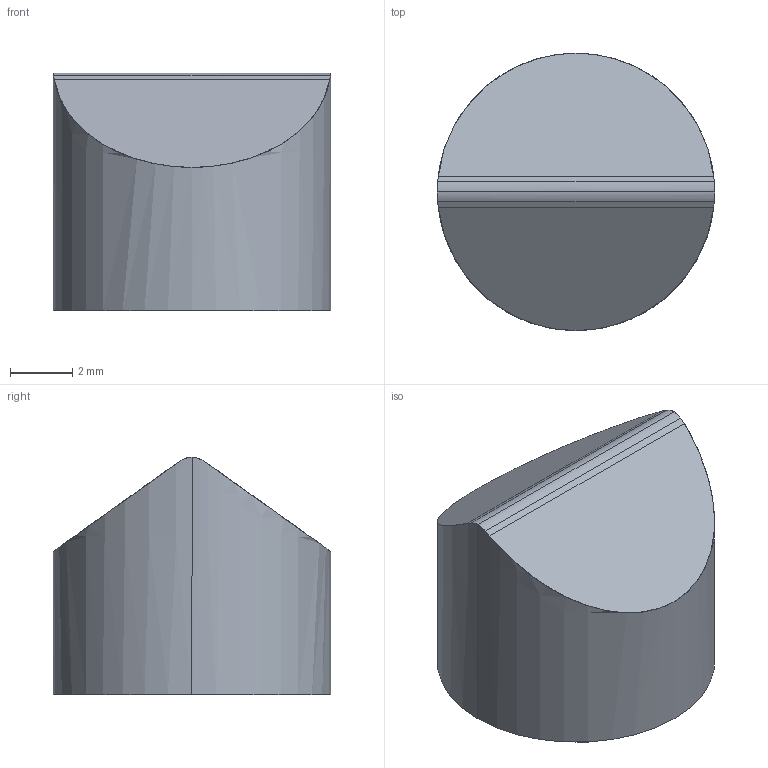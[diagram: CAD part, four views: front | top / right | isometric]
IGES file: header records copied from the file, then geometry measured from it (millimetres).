
Start section: 3D InterOp IGES (Version 19 0 3), Spatial Corp. Copyright (c) 1999-2007.
Global section: file name: export0.igs; native system: Spatial Corp.; preprocessor: 3D InterOp ACIS/IGES; author: Noname; organization: Noname; date: 20110718.145016; units: centimetre
Bounding box: 8.89 x 8.89 x 7.62 mm (x, y, z)
Surface area: 297.8 mm2 (no closed solid volume)
Topology: 0 solids, 0 shells, 9 faces, 42 edges, 42 vertices
Faces by surface type: bspline 4, extrusion 3, revolution 2
